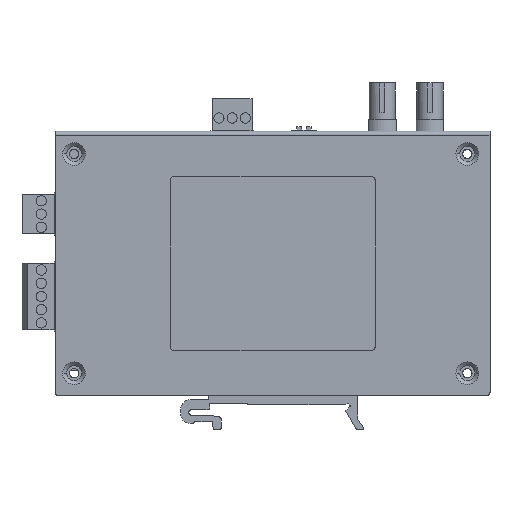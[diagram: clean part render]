
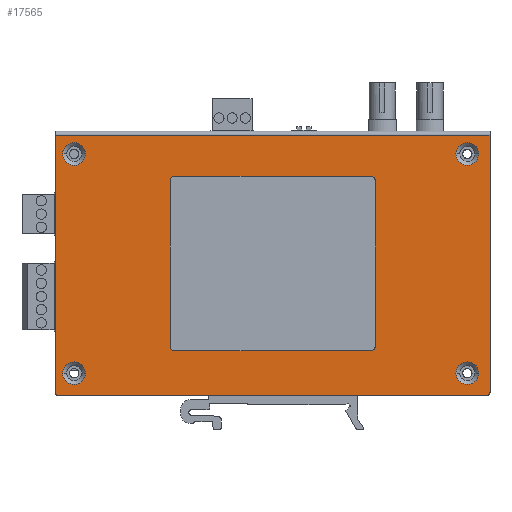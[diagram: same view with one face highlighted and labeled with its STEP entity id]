
A CAD part, left-side view. The second image highlights one B-rep face of the part: STEP entity #17565.
In plain terms, the highlighted planar face has unit normal (-1, 0, 0).
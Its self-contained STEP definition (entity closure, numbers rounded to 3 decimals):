
#1464=DIRECTION('',(0.,-1.,0.));
#1465=VECTOR('',#1464,113.);
#1466=CARTESIAN_POINT('',(-22.4,55.8,-36.8));
#1467=LINE('',#1466,#1465);
#1468=CARTESIAN_POINT('',(-22.4,55.8,-35.8));
#1469=DIRECTION('',(-1.,0.,0.));
#1470=DIRECTION('',(0.,1.,0.));
#1471=AXIS2_PLACEMENT_3D('',#1468,#1469,#1470);
#1473=DIRECTION('',(0.,0.,-1.));
#1474=VECTOR('',#1473,68.);
#1475=CARTESIAN_POINT('',(-22.4,56.8,32.2));
#1476=LINE('',#1475,#1474);
#1477=DIRECTION('',(0.,0.,1.));
#1478=VECTOR('',#1477,68.);
#1479=CARTESIAN_POINT('',(-22.4,-58.2,-35.8));
#1480=LINE('',#1479,#1478);
#1481=CARTESIAN_POINT('',(-22.4,-57.2,-35.8));
#1482=DIRECTION('',(-1.,0.,0.));
#1483=DIRECTION('',(0.,0.,-1.));
#1484=AXIS2_PLACEMENT_3D('',#1481,#1482,#1483);
#1486=CARTESIAN_POINT('',(-22.4,51.8,-30.8));
#1487=DIRECTION('',(1.,0.,0.));
#1488=DIRECTION('',(0.,1.,0.));
#1489=AXIS2_PLACEMENT_3D('',#1486,#1487,#1488);
#1491=CARTESIAN_POINT('',(-22.4,51.8,-30.8));
#1492=DIRECTION('',(1.,0.,0.));
#1493=DIRECTION('',(0.,-1.,0.));
#1494=AXIS2_PLACEMENT_3D('',#1491,#1492,#1493);
#1496=CARTESIAN_POINT('',(-22.4,51.8,27.2));
#1497=DIRECTION('',(1.,0.,0.));
#1498=DIRECTION('',(0.,1.,0.));
#1499=AXIS2_PLACEMENT_3D('',#1496,#1497,#1498);
#1501=CARTESIAN_POINT('',(-22.4,51.8,27.2));
#1502=DIRECTION('',(1.,0.,0.));
#1503=DIRECTION('',(0.,-1.,0.));
#1504=AXIS2_PLACEMENT_3D('',#1501,#1502,#1503);
#1506=CARTESIAN_POINT('',(-22.4,-52.2,27.2));
#1507=DIRECTION('',(1.,0.,0.));
#1508=DIRECTION('',(0.,1.,0.));
#1509=AXIS2_PLACEMENT_3D('',#1506,#1507,#1508);
#1511=CARTESIAN_POINT('',(-22.4,-52.2,27.2));
#1512=DIRECTION('',(1.,0.,0.));
#1513=DIRECTION('',(0.,-1.,0.));
#1514=AXIS2_PLACEMENT_3D('',#1511,#1512,#1513);
#1516=CARTESIAN_POINT('',(-22.4,-52.2,-30.8));
#1517=DIRECTION('',(1.,0.,0.));
#1518=DIRECTION('',(0.,1.,0.));
#1519=AXIS2_PLACEMENT_3D('',#1516,#1517,#1518);
#1521=CARTESIAN_POINT('',(-22.4,-52.2,-30.8));
#1522=DIRECTION('',(1.,0.,0.));
#1523=DIRECTION('',(0.,-1.,0.));
#1524=AXIS2_PLACEMENT_3D('',#1521,#1522,#1523);
#1526=CARTESIAN_POINT('',(-22.4,-26.6,20.1));
#1527=DIRECTION('',(1.,0.,0.));
#1528=DIRECTION('',(0.,0.,1.));
#1529=AXIS2_PLACEMENT_3D('',#1526,#1527,#1528);
#1531=DIRECTION('',(0.,-1.,0.));
#1532=VECTOR('',#1531,51.8);
#1533=CARTESIAN_POINT('',(-22.4,25.2,21.3));
#1534=LINE('',#1533,#1532);
#1535=CARTESIAN_POINT('',(-22.4,25.2,20.1));
#1536=DIRECTION('',(1.,0.,0.));
#1537=DIRECTION('',(0.,1.,0.));
#1538=AXIS2_PLACEMENT_3D('',#1535,#1536,#1537);
#1540=DIRECTION('',(0.,0.,1.));
#1541=VECTOR('',#1540,43.8);
#1542=CARTESIAN_POINT('',(-22.4,26.4,-23.7));
#1543=LINE('',#1542,#1541);
#1544=CARTESIAN_POINT('',(-22.4,25.2,-23.7));
#1545=DIRECTION('',(1.,0.,0.));
#1546=DIRECTION('',(0.,0.,-1.));
#1547=AXIS2_PLACEMENT_3D('',#1544,#1545,#1546);
#1549=DIRECTION('',(0.,1.,0.));
#1550=VECTOR('',#1549,51.8);
#1551=CARTESIAN_POINT('',(-22.4,-26.6,-24.9));
#1552=LINE('',#1551,#1550);
#1553=CARTESIAN_POINT('',(-22.4,-26.6,-23.7));
#1554=DIRECTION('',(1.,0.,0.));
#1555=DIRECTION('',(0.,-1.,0.));
#1556=AXIS2_PLACEMENT_3D('',#1553,#1554,#1555);
#1558=DIRECTION('',(0.,0.,-1.));
#1559=VECTOR('',#1558,43.8);
#1560=CARTESIAN_POINT('',(-22.4,-27.8,20.1));
#1561=LINE('',#1560,#1559);
#1562=DIRECTION('',(0.,-1.,0.));
#1563=VECTOR('',#1562,115.);
#1564=CARTESIAN_POINT('',(-22.4,56.8,32.2));
#1565=LINE('',#1564,#1563);
#13842=CARTESIAN_POINT('',(-22.4,-58.2,32.2));
#13843=VERTEX_POINT('',#13842);
#13852=CARTESIAN_POINT('',(-22.4,55.8,-36.8));
#13853=CARTESIAN_POINT('',(-22.4,-57.2,-36.8));
#13854=VERTEX_POINT('',#13852);
#13855=VERTEX_POINT('',#13853);
#13856=CARTESIAN_POINT('',(-22.4,56.8,32.2));
#13857=VERTEX_POINT('',#13856);
#13862=CARTESIAN_POINT('',(-22.4,54.8,-30.8));
#13863=CARTESIAN_POINT('',(-22.4,48.8,-30.8));
#13864=VERTEX_POINT('',#13862);
#13865=VERTEX_POINT('',#13863);
#13866=CARTESIAN_POINT('',(-22.4,-58.2,-35.8));
#13867=VERTEX_POINT('',#13866);
#13868=CARTESIAN_POINT('',(-22.4,56.8,-35.8));
#13869=VERTEX_POINT('',#13868);
#13888=CARTESIAN_POINT('',(-22.4,54.8,27.2));
#13889=CARTESIAN_POINT('',(-22.4,48.8,27.2));
#13890=VERTEX_POINT('',#13888);
#13891=VERTEX_POINT('',#13889);
#13906=CARTESIAN_POINT('',(-22.4,-49.2,27.2));
#13907=CARTESIAN_POINT('',(-22.4,-55.2,27.2));
#13908=VERTEX_POINT('',#13906);
#13909=VERTEX_POINT('',#13907);
#13922=CARTESIAN_POINT('',(-22.4,-49.2,-30.8));
#13923=CARTESIAN_POINT('',(-22.4,-55.2,-30.8));
#13924=VERTEX_POINT('',#13922);
#13925=VERTEX_POINT('',#13923);
#13946=CARTESIAN_POINT('',(-22.4,-26.6,21.3));
#13947=CARTESIAN_POINT('',(-22.4,-27.8,20.1));
#13948=VERTEX_POINT('',#13946);
#13949=VERTEX_POINT('',#13947);
#13968=CARTESIAN_POINT('',(-22.4,-27.8,-23.7));
#13969=VERTEX_POINT('',#13968);
#13970=CARTESIAN_POINT('',(-22.4,25.2,21.3));
#13971=VERTEX_POINT('',#13970);
#13996=CARTESIAN_POINT('',(-22.4,-26.6,-24.9));
#13997=VERTEX_POINT('',#13996);
#13998=CARTESIAN_POINT('',(-22.4,26.4,20.1));
#13999=VERTEX_POINT('',#13998);
#14028=CARTESIAN_POINT('',(-22.4,25.2,-24.9));
#14029=VERTEX_POINT('',#14028);
#14032=CARTESIAN_POINT('',(-22.4,26.4,-23.7));
#14033=VERTEX_POINT('',#14032);
#17509=CARTESIAN_POINT('',(-22.4,-58.2,32.2));
#17510=DIRECTION('',(1.,0.,0.));
#17511=DIRECTION('',(0.,-1.,0.));
#17512=AXIS2_PLACEMENT_3D('',#17509,#17510,#17511);
#17513=PLANE('',#17512);
#17514=ORIENTED_EDGE('',*,*,#15978,.F.);
#17515=ORIENTED_EDGE('',*,*,#16605,.F.);
#17516=ORIENTED_EDGE('',*,*,#16638,.F.);
#17518=ORIENTED_EDGE('',*,*,#17517,.T.);
#17519=ORIENTED_EDGE('',*,*,#17251,.F.);
#17520=ORIENTED_EDGE('',*,*,#17504,.F.);
#17521=EDGE_LOOP('',(#17514,#17515,#17516,#17518,#17519,#17520));
#17522=FACE_OUTER_BOUND('',#17521,.F.);
#17524=ORIENTED_EDGE('',*,*,#17523,.F.);
#17526=ORIENTED_EDGE('',*,*,#17525,.F.);
#17527=EDGE_LOOP('',(#17524,#17526));
#17528=FACE_BOUND('',#17527,.F.);
#17530=ORIENTED_EDGE('',*,*,#17529,.F.);
#17532=ORIENTED_EDGE('',*,*,#17531,.F.);
#17533=EDGE_LOOP('',(#17530,#17532));
#17534=FACE_BOUND('',#17533,.F.);
#17536=ORIENTED_EDGE('',*,*,#17535,.F.);
#17538=ORIENTED_EDGE('',*,*,#17537,.F.);
#17539=EDGE_LOOP('',(#17536,#17538));
#17540=FACE_BOUND('',#17539,.F.);
#17542=ORIENTED_EDGE('',*,*,#17541,.F.);
#17544=ORIENTED_EDGE('',*,*,#17543,.F.);
#17545=EDGE_LOOP('',(#17542,#17544));
#17546=FACE_BOUND('',#17545,.F.);
#17548=ORIENTED_EDGE('',*,*,#17547,.F.);
#17550=ORIENTED_EDGE('',*,*,#17549,.F.);
#17552=ORIENTED_EDGE('',*,*,#17551,.F.);
#17554=ORIENTED_EDGE('',*,*,#17553,.F.);
#17556=ORIENTED_EDGE('',*,*,#17555,.F.);
#17558=ORIENTED_EDGE('',*,*,#17557,.F.);
#17560=ORIENTED_EDGE('',*,*,#17559,.F.);
#17562=ORIENTED_EDGE('',*,*,#17561,.F.);
#17563=EDGE_LOOP('',(#17548,#17550,#17552,#17554,#17556,#17558,#17560,#17562));
#17564=FACE_BOUND('',#17563,.F.);
#17565=ADVANCED_FACE('',(#17522,#17528,#17534,#17540,#17546,#17564),#17513,.F.);
#1472=CIRCLE('',#1471,1.);
#1485=CIRCLE('',#1484,1.);
#1490=CIRCLE('',#1489,3.);
#1495=CIRCLE('',#1494,3.);
#1500=CIRCLE('',#1499,3.);
#1505=CIRCLE('',#1504,3.);
#1510=CIRCLE('',#1509,3.);
#1515=CIRCLE('',#1514,3.);
#1520=CIRCLE('',#1519,3.);
#1525=CIRCLE('',#1524,3.);
#1530=CIRCLE('',#1529,1.2);
#1539=CIRCLE('',#1538,1.2);
#1548=CIRCLE('',#1547,1.2);
#1557=CIRCLE('',#1556,1.2);
#15978=EDGE_CURVE('',#13854,#13855,#1467,.T.);
#16605=EDGE_CURVE('',#13869,#13854,#1472,.T.);
#16638=EDGE_CURVE('',#13857,#13869,#1476,.T.);
#17251=EDGE_CURVE('',#13867,#13843,#1480,.T.);
#17504=EDGE_CURVE('',#13855,#13867,#1485,.T.);
#17517=EDGE_CURVE('',#13857,#13843,#1565,.T.);
#17523=EDGE_CURVE('',#13864,#13865,#1490,.T.);
#17525=EDGE_CURVE('',#13865,#13864,#1495,.T.);
#17529=EDGE_CURVE('',#13890,#13891,#1500,.T.);
#17531=EDGE_CURVE('',#13891,#13890,#1505,.T.);
#17535=EDGE_CURVE('',#13908,#13909,#1510,.T.);
#17537=EDGE_CURVE('',#13909,#13908,#1515,.T.);
#17541=EDGE_CURVE('',#13924,#13925,#1520,.T.);
#17543=EDGE_CURVE('',#13925,#13924,#1525,.T.);
#17547=EDGE_CURVE('',#13948,#13949,#1530,.T.);
#17549=EDGE_CURVE('',#13971,#13948,#1534,.T.);
#17551=EDGE_CURVE('',#13999,#13971,#1539,.T.);
#17553=EDGE_CURVE('',#14033,#13999,#1543,.T.);
#17555=EDGE_CURVE('',#14029,#14033,#1548,.T.);
#17557=EDGE_CURVE('',#13997,#14029,#1552,.T.);
#17559=EDGE_CURVE('',#13969,#13997,#1557,.T.);
#17561=EDGE_CURVE('',#13949,#13969,#1561,.T.);
